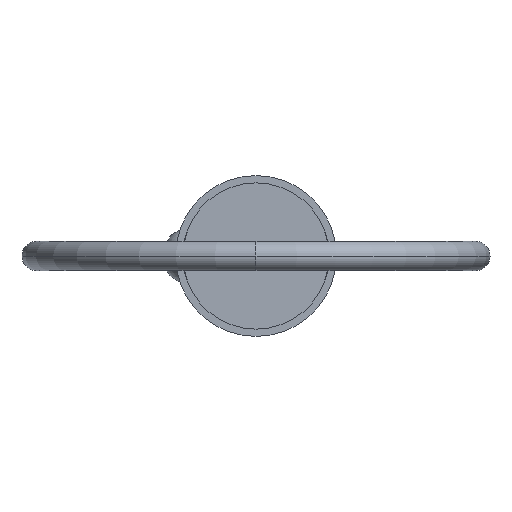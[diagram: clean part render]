
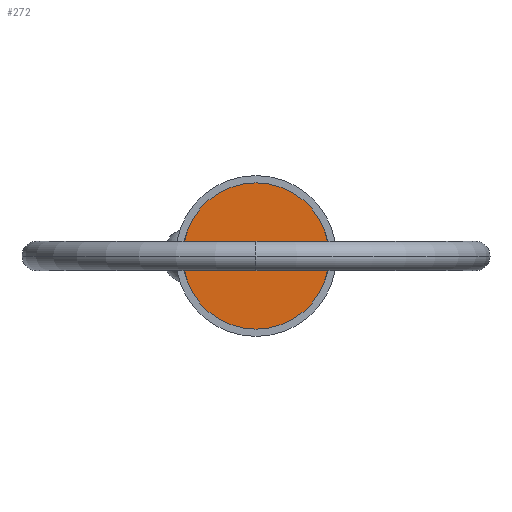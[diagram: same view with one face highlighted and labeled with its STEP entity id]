
A CAD part, left-side view. The second image highlights one B-rep face of the part: STEP entity #272.
In plain terms, the highlighted planar face has unit normal (-1, 0, 0).
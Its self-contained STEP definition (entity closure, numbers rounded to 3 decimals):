
#6 = DIRECTION ( 'NONE',  ( 1., 0., 0. ) ) ;
#44 = AXIS2_PLACEMENT_3D ( 'NONE', #718, #554, #387 ) ;
#85 = CARTESIAN_POINT ( 'NONE',  ( 0., 0., 0. ) ) ;
#91 = CIRCLE ( 'NONE', #44, 9.525 ) ;
#203 = EDGE_LOOP ( 'NONE', ( #769, #854 ) ) ;
#272 = ADVANCED_FACE ( 'NONE', ( #829 ), #335, .T. ) ;
#335 = PLANE ( 'NONE',  #440 ) ;
#339 = CARTESIAN_POINT ( 'NONE',  ( 0., 0., 0. ) ) ;
#351 = CARTESIAN_POINT ( 'NONE',  ( 0., 0., 9.525 ) ) ;
#380 = CIRCLE ( 'NONE', #469, 9.525 ) ;
#387 = DIRECTION ( 'NONE',  ( 0., 0., -1. ) ) ;
#440 = AXIS2_PLACEMENT_3D ( 'NONE', #339, #917, #992 ) ;
#469 = AXIS2_PLACEMENT_3D ( 'NONE', #85, #6, #1065 ) ;
#554 = DIRECTION ( 'NONE',  ( 1., 0., 0. ) ) ;
#692 = EDGE_CURVE ( 'NONE', #924, #767, #380, .T. ) ;
#718 = CARTESIAN_POINT ( 'NONE',  ( 0., 0., 0. ) ) ;
#767 = VERTEX_POINT ( 'NONE', #351 ) ;
#769 = ORIENTED_EDGE ( 'NONE', *, *, #692, .F. ) ;
#829 = FACE_OUTER_BOUND ( 'NONE', #203, .T. ) ;
#854 = ORIENTED_EDGE ( 'NONE', *, *, #1024, .F. ) ;
#879 = CARTESIAN_POINT ( 'NONE',  ( 0., 0., -9.525 ) ) ;
#917 = DIRECTION ( 'NONE',  ( -1., 0., 0. ) ) ;
#924 = VERTEX_POINT ( 'NONE', #879 ) ;
#992 = DIRECTION ( 'NONE',  ( 0., 0., 1. ) ) ;
#1024 = EDGE_CURVE ( 'NONE', #767, #924, #91, .T. ) ;
#1065 = DIRECTION ( 'NONE',  ( 0., 0., -1. ) ) ;
